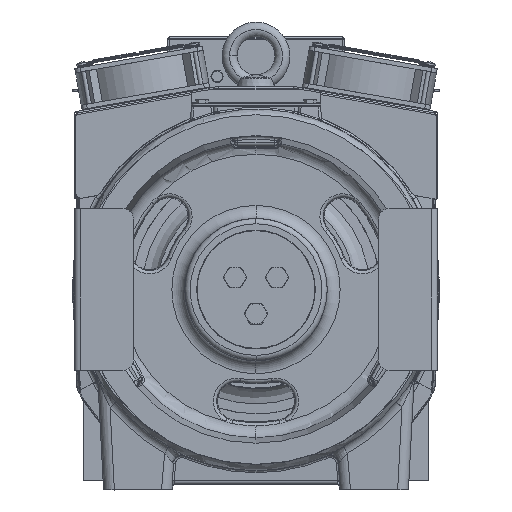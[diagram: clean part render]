
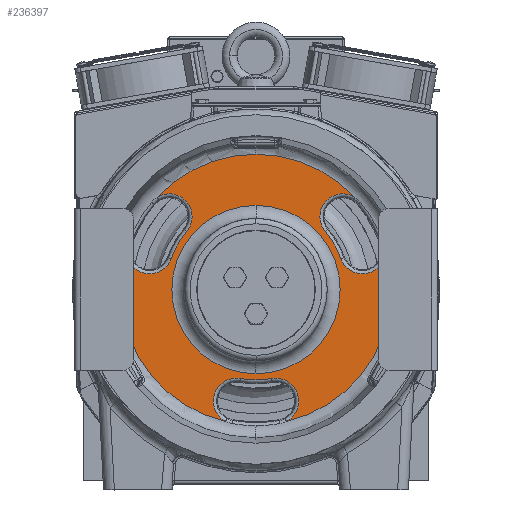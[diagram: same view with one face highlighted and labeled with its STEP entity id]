
A CAD part, top view. The second image highlights one B-rep face of the part: STEP entity #236397.
In plain terms, the highlighted planar face has unit normal (0, 0, 1) as drawn and (0, 0, -1) by its records, which use the part's own axes.
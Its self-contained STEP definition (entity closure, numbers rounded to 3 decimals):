
#232221=CARTESIAN_POINT('',(0.,0.,-10.));
#232222=DIRECTION('',(0.,0.,-1.));
#232223=DIRECTION('',(0.,-1.,0.));
#232224=AXIS2_PLACEMENT_3D('',#232221,#232222,#232223);
#232226=CARTESIAN_POINT('',(0.,0.,-10.));
#232227=DIRECTION('',(0.,0.,-1.));
#232228=DIRECTION('',(0.,1.,0.));
#232229=AXIS2_PLACEMENT_3D('',#232226,#232227,#232228);
#232231=CARTESIAN_POINT('',(-18.233,-103.405,-10.));
#232232=DIRECTION('',(0.,0.,1.));
#232233=DIRECTION('',(0.174,0.985,0.));
#232234=AXIS2_PLACEMENT_3D('',#232231,#232232,#232233);
#232236=CARTESIAN_POINT('',(0.,0.,-10.));
#232237=DIRECTION('',(0.,0.,-1.));
#232238=DIRECTION('',(0.174,-0.985,0.));
#232239=AXIS2_PLACEMENT_3D('',#232236,#232237,#232238);
#232241=CARTESIAN_POINT('',(18.233,-103.405,-10.));
#232242=DIRECTION('',(0.,0.,1.));
#232243=DIRECTION('',(0.469,-0.883,0.));
#232244=AXIS2_PLACEMENT_3D('',#232241,#232242,#232243);
#232246=CARTESIAN_POINT('',(0.,0.,-10.));
#232247=DIRECTION('',(0.,0.,-1.));
#232248=DIRECTION('',(0.956,0.292,0.));
#232249=AXIS2_PLACEMENT_3D('',#232246,#232247,#232248);
#232251=CARTESIAN_POINT('',(98.668,35.912,-10.));
#232252=DIRECTION('',(0.,0.,1.));
#232253=DIRECTION('',(-0.94,-0.342,0.));
#232254=AXIS2_PLACEMENT_3D('',#232251,#232252,#232253);
#232256=CARTESIAN_POINT('',(0.,0.,-10.));
#232257=DIRECTION('',(0.,0.,-1.));
#232258=DIRECTION('',(0.766,0.643,0.));
#232259=AXIS2_PLACEMENT_3D('',#232256,#232257,#232258);
#232261=CARTESIAN_POINT('',(80.435,67.493,-10.));
#232262=DIRECTION('',(0.,0.,1.));
#232263=DIRECTION('',(0.531,0.848,0.));
#232264=AXIS2_PLACEMENT_3D('',#232261,#232262,#232263);
#232266=CARTESIAN_POINT('',(0.,0.,-10.));
#232267=DIRECTION('',(0.,0.,-1.));
#232268=DIRECTION('',(0.,1.,0.));
#232269=AXIS2_PLACEMENT_3D('',#232266,#232267,#232268);
#232271=CARTESIAN_POINT('',(0.,0.,-10.));
#232272=DIRECTION('',(0.,0.,-1.));
#232273=DIRECTION('',(-0.731,0.682,0.));
#232274=AXIS2_PLACEMENT_3D('',#232271,#232272,#232273);
#232276=CARTESIAN_POINT('',(-80.435,67.493,-10.));
#232277=DIRECTION('',(0.,0.,1.));
#232278=DIRECTION('',(0.766,-0.643,0.));
#232279=AXIS2_PLACEMENT_3D('',#232276,#232277,#232278);
#232281=CARTESIAN_POINT('',(0.,0.,-10.));
#232282=DIRECTION('',(0.,0.,-1.));
#232283=DIRECTION('',(-0.94,0.342,0.));
#232284=AXIS2_PLACEMENT_3D('',#232281,#232282,#232283);
#232286=CARTESIAN_POINT('',(-98.668,35.912,-10.));
#232287=DIRECTION('',(0.,0.,1.));
#232288=DIRECTION('',(-0.999,0.036,0.));
#232289=AXIS2_PLACEMENT_3D('',#232286,#232287,#232288);
#232291=CARTESIAN_POINT('',(0.,0.,-10.));
#232292=DIRECTION('',(0.,0.,-1.));
#232293=DIRECTION('',(-0.225,-0.974,0.));
#232294=AXIS2_PLACEMENT_3D('',#232291,#232292,#232293);
#235704=CARTESIAN_POINT('',(0.,-77.987,-10.));
#235705=CARTESIAN_POINT('',(0.,77.987,-10.));
#235706=VERTEX_POINT('',#235704);
#235707=VERTEX_POINT('',#235705);
#235849=CARTESIAN_POINT('',(0.,125.389,-10.));
#235850=VERTEX_POINT('',#235849);
#235865=CARTESIAN_POINT('',(-14.543,-82.475,-10.));
#235866=CARTESIAN_POINT('',(-28.194,-122.178,-10.));
#235867=VERTEX_POINT('',#235865);
#235868=VERTEX_POINT('',#235866);
#235873=CARTESIAN_POINT('',(28.194,-122.178,-10.));
#235874=CARTESIAN_POINT('',(14.543,-82.475,-10.));
#235875=VERTEX_POINT('',#235873);
#235876=VERTEX_POINT('',#235874);
#235925=CARTESIAN_POINT('',(78.697,28.643,-10.));
#235926=CARTESIAN_POINT('',(119.906,36.672,-10.));
#235927=VERTEX_POINT('',#235925);
#235928=VERTEX_POINT('',#235926);
#235933=CARTESIAN_POINT('',(91.712,85.506,-10.));
#235934=CARTESIAN_POINT('',(64.154,53.832,-10.));
#235935=VERTEX_POINT('',#235933);
#235936=VERTEX_POINT('',#235934);
#235941=CARTESIAN_POINT('',(-64.154,53.832,-10.));
#235942=CARTESIAN_POINT('',(-91.712,85.506,-10.));
#235943=VERTEX_POINT('',#235941);
#235944=VERTEX_POINT('',#235942);
#235949=CARTESIAN_POINT('',(-119.906,36.672,-10.));
#235950=CARTESIAN_POINT('',(-78.697,28.643,-10.));
#235951=VERTEX_POINT('',#235949);
#235952=VERTEX_POINT('',#235950);
#236359=CARTESIAN_POINT('',(0.,0.,-10.));
#236360=DIRECTION('',(0.,0.,1.));
#236361=DIRECTION('',(0.,1.,0.));
#236362=AXIS2_PLACEMENT_3D('',#236359,#236360,#236361);
#236363=PLANE('',#236362);
#236365=ORIENTED_EDGE('',*,*,#236364,.F.);
#236367=ORIENTED_EDGE('',*,*,#236366,.F.);
#236369=ORIENTED_EDGE('',*,*,#236368,.F.);
#236371=ORIENTED_EDGE('',*,*,#236370,.F.);
#236373=ORIENTED_EDGE('',*,*,#236372,.F.);
#236375=ORIENTED_EDGE('',*,*,#236374,.F.);
#236377=ORIENTED_EDGE('',*,*,#236376,.F.);
#236379=ORIENTED_EDGE('',*,*,#236378,.F.);
#236381=ORIENTED_EDGE('',*,*,#236380,.F.);
#236383=ORIENTED_EDGE('',*,*,#236382,.F.);
#236385=ORIENTED_EDGE('',*,*,#236384,.F.);
#236387=ORIENTED_EDGE('',*,*,#236386,.F.);
#236389=ORIENTED_EDGE('',*,*,#236388,.F.);
#236390=EDGE_LOOP('',(#236365,#236367,#236369,#236371,#236373,#236375,#236377,
#236379,#236381,#236383,#236385,#236387,#236389));
#236391=FACE_OUTER_BOUND('',#236390,.F.);
#236392=ORIENTED_EDGE('',*,*,#236349,.T.);
#236394=ORIENTED_EDGE('',*,*,#236393,.T.);
#236395=EDGE_LOOP('',(#236392,#236394));
#236396=FACE_BOUND('',#236395,.F.);
#236397=ADVANCED_FACE('',(#236391,#236396),#236363,.F.);
#232225=CIRCLE('',#232224,77.987);
#232230=CIRCLE('',#232229,77.987);
#232235=CIRCLE('',#232234,21.252);
#232240=CIRCLE('',#232239,83.748);
#232245=CIRCLE('',#232244,21.252);
#232250=CIRCLE('',#232249,125.389);
#232255=CIRCLE('',#232254,21.252);
#232260=CIRCLE('',#232259,83.748);
#232265=CIRCLE('',#232264,21.252);
#232270=CIRCLE('',#232269,125.389);
#232275=CIRCLE('',#232274,125.389);
#232280=CIRCLE('',#232279,21.252);
#232285=CIRCLE('',#232284,83.748);
#232290=CIRCLE('',#232289,21.252);
#232295=CIRCLE('',#232294,125.389);
#236349=EDGE_CURVE('',#235706,#235707,#232225,.T.);
#236364=EDGE_CURVE('',#235867,#235868,#232235,.T.);
#236366=EDGE_CURVE('',#235876,#235867,#232240,.T.);
#236368=EDGE_CURVE('',#235875,#235876,#232245,.T.);
#236370=EDGE_CURVE('',#235928,#235875,#232250,.T.);
#236372=EDGE_CURVE('',#235927,#235928,#232255,.T.);
#236374=EDGE_CURVE('',#235936,#235927,#232260,.T.);
#236376=EDGE_CURVE('',#235935,#235936,#232265,.T.);
#236378=EDGE_CURVE('',#235850,#235935,#232270,.T.);
#236380=EDGE_CURVE('',#235944,#235850,#232275,.T.);
#236382=EDGE_CURVE('',#235943,#235944,#232280,.T.);
#236384=EDGE_CURVE('',#235952,#235943,#232285,.T.);
#236386=EDGE_CURVE('',#235951,#235952,#232290,.T.);
#236388=EDGE_CURVE('',#235868,#235951,#232295,.T.);
#236393=EDGE_CURVE('',#235707,#235706,#232230,.T.);
